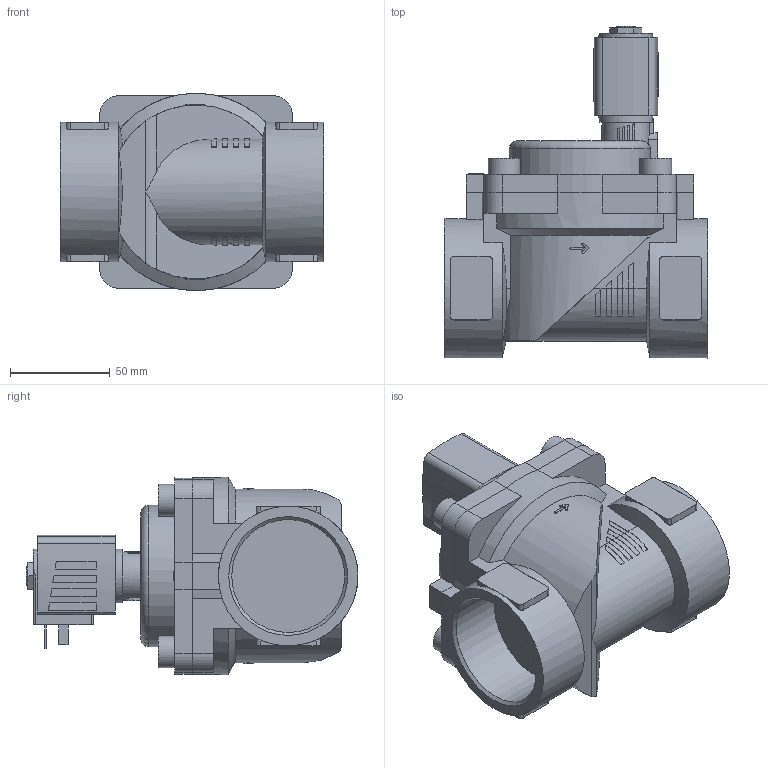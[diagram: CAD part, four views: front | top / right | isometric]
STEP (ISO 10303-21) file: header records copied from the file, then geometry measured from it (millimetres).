
FILE_DESCRIPTION(/* description */ ('STEP AP214'),/* implementation_level */ '2;1');
FILE_NAME(/* name */ '6281-251444-2_2-Way_Solenoid_Valve__Servo-assisted__General_Purpose',/* time_stamp */ '2024-09-04T13:27:28+02:00',/* author */ ('License CC BY-ND 4.0'),/* organization */ ('CADENAS'),/* preprocessor_version */ 'ST-DEVELOPER v19.3',/* originating_system */ 'PARTsolutions',/* authorisation */ ' ');
FILE_SCHEMA (('AUTOMOTIVE_DESIGN {1 0 10303 214 3 1 1}'));
Length unit declared in the file: millimetre
Products named in the file (4): 6281-251444-2/2-Way Solenoid Valve, Servo-assisted, General Purpose; 5281ev400MS2/2-Wege-Magnetventil mit Servomembran-Deckel 99 ; 6213-40G2MS-Gehaeuse-; AC10ex-5NA38-Plan-Coil
Assembly tree (3 placements, depth 2):
  6281-251444-2/2-Way Solenoid Valve, Servo-assisted, General Purpose
    5281ev400MS2/2-Wege-Magnetventil mit Servomembran-Deckel 99 
    6213-40G2MS-Gehaeuse-
    AC10ex-5NA38-Plan-Coil
Bounding box: 132 x 166.5 x 99 mm (x, y, z)
Volume: 728679.1 mm3; surface area: 102545.5 mm2
Topology: 3 solids, 3 shells, 346 faces, 909 edges, 601 vertices
Faces by surface type: plane 237, cylinder 95, cone 13, torus 1
Full cylindrical faces by diameter (mm): 2.013 x1, 9.74 x1, 16 x4, 27 x1, 56.656 x2, 70 x2
Entity records: 11936 total; most frequent: CARTESIAN_POINT 2109, ORIENTED_EDGE 1772, DIRECTION 1760, EDGE_CURVE 886, AXIS2_PLACEMENT_3D 596, VERTEX_POINT 593, LINE 568, VECTOR 568
